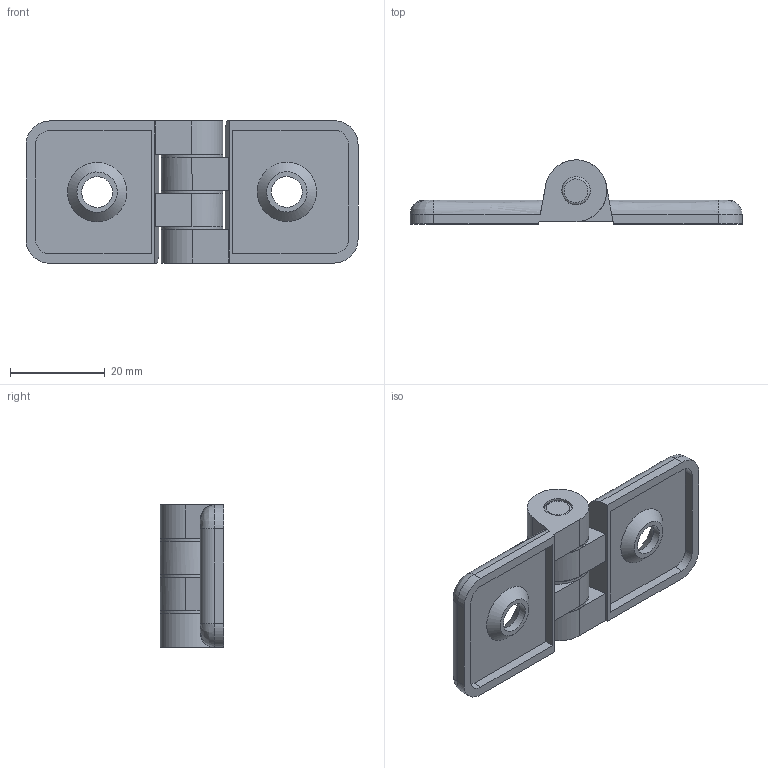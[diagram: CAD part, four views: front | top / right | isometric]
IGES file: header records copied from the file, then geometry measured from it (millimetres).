
Global section: file name: DR_HC3070; native system: Autodesk Inventor 2015; preprocessor: unknown; author: CH.J; date: 20180810.182241; units: millimetre
Bounding box: 70 x 13.48 x 30.05 mm (x, y, z)
Volume: 9420.9 mm3; surface area: 8431.4 mm2
Topology: 6 solids, 6 shells, 91 faces, 215 edges, 140 vertices
Faces by surface type: bspline 91
